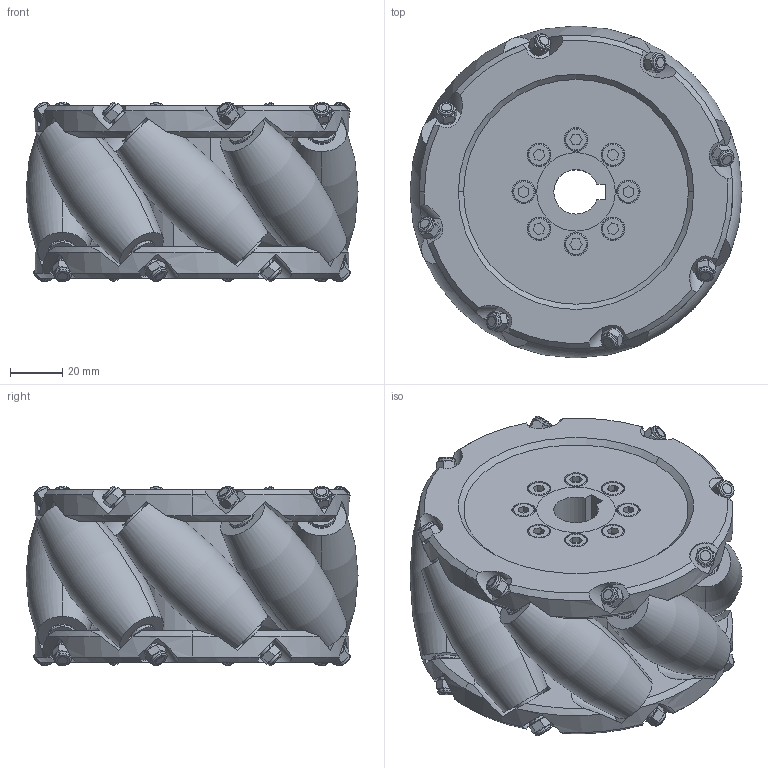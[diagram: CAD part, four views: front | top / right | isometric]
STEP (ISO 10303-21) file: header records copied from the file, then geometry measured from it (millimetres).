
FILE_DESCRIPTION (( 'STEP AP214' ), '1' );
FILE_NAME ('NM127A-M0.4.STEP', '2017-04-26T05:48:05', ( '微软用户' ), ( '微软中国' ), 'SwSTEP 2.0', 'SolidWorks 2015', '' );
FILE_SCHEMA (( 'AUTOMOTIVE_DESIGN' ));
Length unit declared in the file: millimetre
Products named in the file (10): 滅侂蹟譫M4; す菜朴5; NM127AL-5; 旮僱⑩粣創(685); NM127AL-2; NM127AR-1; NM127AL-3; NM127A-M0.4; 4X1.1 粟菜; LNJYZTLS-M5X15
Assembly tree (92 placements, depth 2):
  NM127A-M0.4
    NM127AL-3  x8
    NM127AR-1  x2
    NM127AL-2
    旮僱⑩粣創(685)  x9
    NM127AL-5  x8
    す菜朴5  x16
    滅侂蹟譫M4  x16
    LNJYZTLS-M5X15  x16
    4X1.1 粟菜  x16
Bounding box: 127 x 127 x 68.73 mm (x, y, z)
Volume: 510810.3 mm3; surface area: 167346.7 mm2
Topology: 173 solids, 173 shells, 1937 faces, 4483 edges, 2832 vertices
Faces by surface type: cylinder 736, plane 563, cone 248, torus 246, sphere 144
Entity records: 11634 total; most frequent: CARTESIAN_POINT 2226, DIRECTION 1951, ORIENTED_EDGE 1554, AXIS2_PLACEMENT_3D 853, EDGE_CURVE 777, VERTEX_POINT 504, EDGE_LOOP 425, CIRCLE 414
